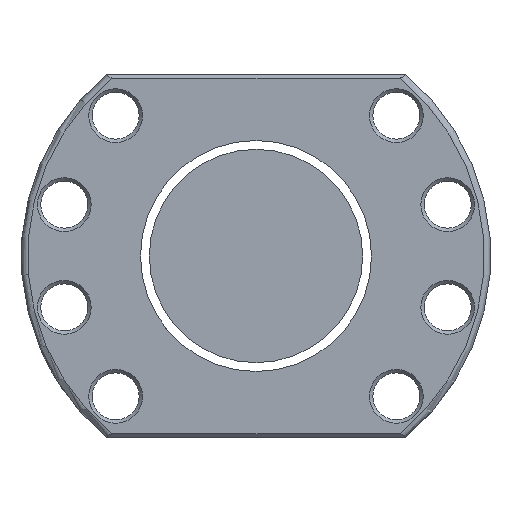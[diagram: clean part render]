
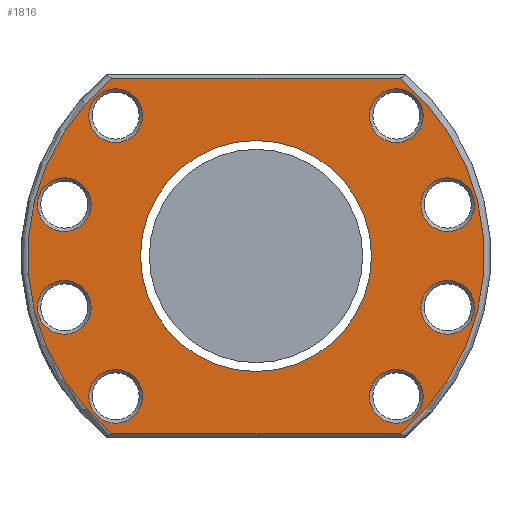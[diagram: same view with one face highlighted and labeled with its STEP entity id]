
A CAD part, left-side view. The second image highlights one B-rep face of the part: STEP entity #1816.
In plain terms, the highlighted planar face has unit normal (-1, 0, 0).
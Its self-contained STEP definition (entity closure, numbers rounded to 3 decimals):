
#9 = EDGE_CURVE ( 'NONE', #1322, #2415, #1702, .T. ) ;
#20 = VERTEX_POINT ( 'NONE', #1061 ) ;
#24 = ORIENTED_EDGE ( 'NONE', *, *, #9, .T. ) ;
#49 = CARTESIAN_POINT ( 'NONE',  ( -88., -51.216, -12.035 ) ) ;
#84 = VERTEX_POINT ( 'NONE', #49 ) ;
#140 = EDGE_LOOP ( 'NONE', ( #1144 ) ) ;
#149 = DIRECTION ( 'NONE',  ( 0., -1., 0. ) ) ;
#198 = CARTESIAN_POINT ( 'NONE',  ( -88., 55., 0. ) ) ;
#254 = FACE_BOUND ( 'NONE', #1806, .T. ) ;
#342 = CARTESIAN_POINT ( 'NONE',  ( -88., -39.18, 32.88 ) ) ;
#353 = CIRCLE ( 'NONE', #1825, 6.3 ) ;
#355 = ORIENTED_EDGE ( 'NONE', *, *, #3123, .T. ) ;
#389 = DIRECTION ( 'NONE',  ( 1., 0., 0. ) ) ;
#424 = DIRECTION ( 'NONE',  ( 0., 1., 0. ) ) ;
#435 = LINE ( 'NONE', #3251, #2526 ) ;
#447 = DIRECTION ( 'NONE',  ( 1., 0., 0. ) ) ;
#451 = FACE_OUTER_BOUND ( 'NONE', #2078, .T. ) ;
#470 = EDGE_LOOP ( 'NONE', ( #3178 ) ) ;
#490 = FACE_BOUND ( 'NONE', #470, .T. ) ;
#511 = DIRECTION ( 'NONE',  ( 1., 0., 0. ) ) ;
#517 = CARTESIAN_POINT ( 'NONE',  ( -88., -51.216, 12.035 ) ) ;
#525 = EDGE_LOOP ( 'NONE', ( #2044 ) ) ;
#533 = EDGE_CURVE ( 'NONE', #1774, #1774, #2094, .T. ) ;
#571 = AXIS2_PLACEMENT_3D ( 'NONE', #198, #2523, #2289 ) ;
#577 = ORIENTED_EDGE ( 'NONE', *, *, #1029, .T. ) ;
#640 = DIRECTION ( 'NONE',  ( 1., 0., 0. ) ) ;
#734 = CIRCLE ( 'NONE', #1013, 6.3 ) ;
#760 = CARTESIAN_POINT ( 'NONE',  ( -88., 32.88, 32.88 ) ) ;
#783 = CARTESIAN_POINT ( 'NONE',  ( -88., -44.916, 12.035 ) ) ;
#807 = CARTESIAN_POINT ( 'NONE',  ( -88., 26.58, -32.88 ) ) ;
#865 = ORIENTED_EDGE ( 'NONE', *, *, #2892, .T. ) ;
#886 = DIRECTION ( 'NONE',  ( 1., 0., 0. ) ) ;
#906 = DIRECTION ( 'NONE',  ( 0., -1., 0. ) ) ;
#956 = CIRCLE ( 'NONE', #2422, 6.3 ) ;
#964 = CARTESIAN_POINT ( 'NONE',  ( -88., -33.517, -41.7 ) ) ;
#966 = CARTESIAN_POINT ( 'NONE',  ( -88., 0., 0. ) ) ;
#977 = DIRECTION ( 'NONE',  ( 0., -1., 0. ) ) ;
#1013 = AXIS2_PLACEMENT_3D ( 'NONE', #1441, #640, #149 ) ;
#1029 = EDGE_CURVE ( 'NONE', #1523, #1523, #1973, .T. ) ;
#1050 = DIRECTION ( 'NONE',  ( 1., 0., 0. ) ) ;
#1054 = EDGE_LOOP ( 'NONE', ( #1734 ) ) ;
#1061 = CARTESIAN_POINT ( 'NONE',  ( -88., 38.616, -12.035 ) ) ;
#1065 = AXIS2_PLACEMENT_3D ( 'NONE', #3357, #886, #906 ) ;
#1144 = ORIENTED_EDGE ( 'NONE', *, *, #1573, .T. ) ;
#1165 = AXIS2_PLACEMENT_3D ( 'NONE', #2967, #3203, #2918 ) ;
#1231 = CIRCLE ( 'NONE', #3132, 27.05 ) ;
#1302 = VERTEX_POINT ( 'NONE', #2338 ) ;
#1322 = VERTEX_POINT ( 'NONE', #964 ) ;
#1375 = VERTEX_POINT ( 'NONE', #342 ) ;
#1382 = AXIS2_PLACEMENT_3D ( 'NONE', #2773, #447, #2757 ) ;
#1384 = AXIS2_PLACEMENT_3D ( 'NONE', #1759, #1487, #2797 ) ;
#1385 = CIRCLE ( 'NONE', #1559, 6.3 ) ;
#1390 = VERTEX_POINT ( 'NONE', #1690 ) ;
#1417 = CARTESIAN_POINT ( 'NONE',  ( -88., -33.517, 41.7 ) ) ;
#1441 = CARTESIAN_POINT ( 'NONE',  ( -88., 44.916, 12.035 ) ) ;
#1447 = EDGE_LOOP ( 'NONE', ( #3245 ) ) ;
#1471 = EDGE_LOOP ( 'NONE', ( #577 ) ) ;
#1474 = DIRECTION ( 'NONE',  ( -1., 0., 0. ) ) ;
#1487 = DIRECTION ( 'NONE',  ( 1., 0., 0. ) ) ;
#1523 = VERTEX_POINT ( 'NONE', #2863 ) ;
#1551 = DIRECTION ( 'NONE',  ( 0., -1., 0. ) ) ;
#1559 = AXIS2_PLACEMENT_3D ( 'NONE', #2421, #1050, #2086 ) ;
#1573 = EDGE_CURVE ( 'NONE', #3335, #3335, #353, .T. ) ;
#1600 = VERTEX_POINT ( 'NONE', #3174 ) ;
#1604 = AXIS2_PLACEMENT_3D ( 'NONE', #760, #1798, #977 ) ;
#1687 = LINE ( 'NONE', #2471, #2692 ) ;
#1690 = CARTESIAN_POINT ( 'NONE',  ( -88., 33.517, -41.7 ) ) ;
#1702 = CIRCLE ( 'NONE', #1165, 53.5 ) ;
#1734 = ORIENTED_EDGE ( 'NONE', *, *, #2377, .T. ) ;
#1741 = PLANE ( 'NONE',  #571 ) ;
#1748 = EDGE_CURVE ( 'NONE', #1302, #1302, #2741, .T. ) ;
#1759 = CARTESIAN_POINT ( 'NONE',  ( -88., 44.916, -12.035 ) ) ;
#1774 = VERTEX_POINT ( 'NONE', #807 ) ;
#1798 = DIRECTION ( 'NONE',  ( 1., 0., 0. ) ) ;
#1806 = EDGE_LOOP ( 'NONE', ( #2484 ) ) ;
#1816 = ADVANCED_FACE ( 'NONE', ( #490, #3048, #3302, #2818, #3104, #2543, #254, #2834, #451, #3031 ), #1741, .T. ) ;
#1825 = AXIS2_PLACEMENT_3D ( 'NONE', #783, #511, #1551 ) ;
#1867 = CARTESIAN_POINT ( 'NONE',  ( -88., 27.05, 0. ) ) ;
#1911 = EDGE_CURVE ( 'NONE', #20, #20, #3341, .T. ) ;
#1973 = CIRCLE ( 'NONE', #1382, 6.3 ) ;
#1982 = AXIS2_PLACEMENT_3D ( 'NONE', #2731, #1474, #2224 ) ;
#2044 = ORIENTED_EDGE ( 'NONE', *, *, #533, .T. ) ;
#2078 = EDGE_LOOP ( 'NONE', ( #865, #24, #3351, #2827 ) ) ;
#2086 = DIRECTION ( 'NONE',  ( 0., -1., 0. ) ) ;
#2094 = CIRCLE ( 'NONE', #1065, 6.3 ) ;
#2144 = VERTEX_POINT ( 'NONE', #1867 ) ;
#2224 = DIRECTION ( 'NONE',  ( 0., -1., 0. ) ) ;
#2237 = DIRECTION ( 'NONE',  ( 0., -1., 0. ) ) ;
#2289 = DIRECTION ( 'NONE',  ( 0., -1., 0. ) ) ;
#2336 = EDGE_LOOP ( 'NONE', ( #355 ) ) ;
#2338 = CARTESIAN_POINT ( 'NONE',  ( -88., 26.58, 32.88 ) ) ;
#2377 = EDGE_CURVE ( 'NONE', #84, #84, #1385, .T. ) ;
#2415 = VERTEX_POINT ( 'NONE', #1417 ) ;
#2421 = CARTESIAN_POINT ( 'NONE',  ( -88., -44.916, -12.035 ) ) ;
#2422 = AXIS2_PLACEMENT_3D ( 'NONE', #2749, #2479, #3221 ) ;
#2434 = EDGE_CURVE ( 'NONE', #2415, #2853, #1687, .T. ) ;
#2471 = CARTESIAN_POINT ( 'NONE',  ( -88., 34.911, 41.7 ) ) ;
#2479 = DIRECTION ( 'NONE',  ( 1., 0., 0. ) ) ;
#2484 = ORIENTED_EDGE ( 'NONE', *, *, #1748, .T. ) ;
#2523 = DIRECTION ( 'NONE',  ( -1., 0., 0. ) ) ;
#2526 = VECTOR ( 'NONE', #2237, 1000. ) ;
#2542 = EDGE_LOOP ( 'NONE', ( #3363 ) ) ;
#2543 = FACE_BOUND ( 'NONE', #2336, .T. ) ;
#2692 = VECTOR ( 'NONE', #2725, 1000. ) ;
#2725 = DIRECTION ( 'NONE',  ( 0., 1., 0. ) ) ;
#2731 = CARTESIAN_POINT ( 'NONE',  ( -88., 0., 0. ) ) ;
#2741 = CIRCLE ( 'NONE', #1604, 6.3 ) ;
#2749 = CARTESIAN_POINT ( 'NONE',  ( -88., -32.88, 32.88 ) ) ;
#2757 = DIRECTION ( 'NONE',  ( 0., -1., 0. ) ) ;
#2773 = CARTESIAN_POINT ( 'NONE',  ( -88., -32.88, -32.88 ) ) ;
#2797 = DIRECTION ( 'NONE',  ( 0., -1., 0. ) ) ;
#2818 = FACE_BOUND ( 'NONE', #1054, .T. ) ;
#2827 = ORIENTED_EDGE ( 'NONE', *, *, #3263, .T. ) ;
#2834 = FACE_BOUND ( 'NONE', #1447, .T. ) ;
#2853 = VERTEX_POINT ( 'NONE', #2886 ) ;
#2863 = CARTESIAN_POINT ( 'NONE',  ( -88., -39.18, -32.88 ) ) ;
#2886 = CARTESIAN_POINT ( 'NONE',  ( -88., 33.517, 41.7 ) ) ;
#2892 = EDGE_CURVE ( 'NONE', #1390, #1322, #435, .T. ) ;
#2918 = DIRECTION ( 'NONE',  ( 0., -1., 0. ) ) ;
#2967 = CARTESIAN_POINT ( 'NONE',  ( -88., 0., 0. ) ) ;
#2975 = EDGE_CURVE ( 'NONE', #1600, #1600, #734, .T. ) ;
#3013 = CIRCLE ( 'NONE', #1982, 53.5 ) ;
#3015 = EDGE_CURVE ( 'NONE', #2144, #2144, #1231, .T. ) ;
#3031 = FACE_BOUND ( 'NONE', #2542, .T. ) ;
#3048 = FACE_BOUND ( 'NONE', #525, .T. ) ;
#3104 = FACE_BOUND ( 'NONE', #140, .T. ) ;
#3123 = EDGE_CURVE ( 'NONE', #1375, #1375, #956, .T. ) ;
#3132 = AXIS2_PLACEMENT_3D ( 'NONE', #966, #389, #424 ) ;
#3174 = CARTESIAN_POINT ( 'NONE',  ( -88., 38.616, 12.035 ) ) ;
#3178 = ORIENTED_EDGE ( 'NONE', *, *, #1911, .T. ) ;
#3203 = DIRECTION ( 'NONE',  ( -1., 0., 0. ) ) ;
#3221 = DIRECTION ( 'NONE',  ( 0., -1., 0. ) ) ;
#3245 = ORIENTED_EDGE ( 'NONE', *, *, #2975, .T. ) ;
#3251 = CARTESIAN_POINT ( 'NONE',  ( -88., -34.911, -41.7 ) ) ;
#3263 = EDGE_CURVE ( 'NONE', #2853, #1390, #3013, .T. ) ;
#3302 = FACE_BOUND ( 'NONE', #1471, .T. ) ;
#3335 = VERTEX_POINT ( 'NONE', #517 ) ;
#3341 = CIRCLE ( 'NONE', #1384, 6.3 ) ;
#3351 = ORIENTED_EDGE ( 'NONE', *, *, #2434, .T. ) ;
#3357 = CARTESIAN_POINT ( 'NONE',  ( -88., 32.88, -32.88 ) ) ;
#3363 = ORIENTED_EDGE ( 'NONE', *, *, #3015, .T. ) ;
